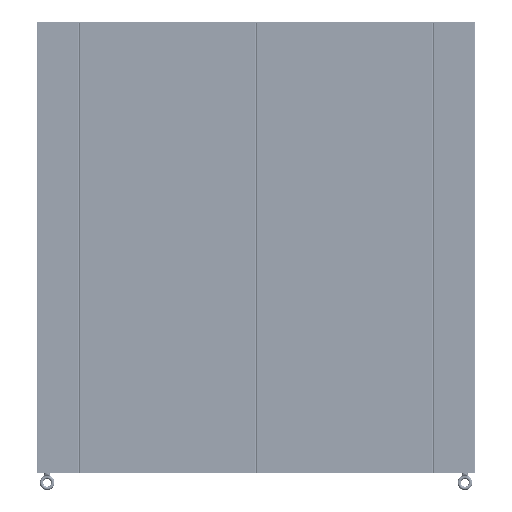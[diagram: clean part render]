
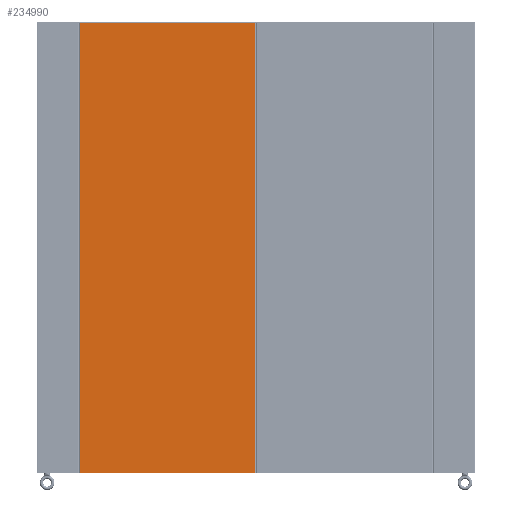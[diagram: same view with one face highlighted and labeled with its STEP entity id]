
A CAD part, left-side view. The second image highlights one B-rep face of the part: STEP entity #234990.
In plain terms, the highlighted planar face has unit normal (-1, 0, 0) as drawn and (0, 0, -1) by its records, which use the part's own axes.
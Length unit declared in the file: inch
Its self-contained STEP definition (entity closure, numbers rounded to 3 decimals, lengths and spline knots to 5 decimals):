
#234011=DIRECTION('',(0.,-1.,0.));
#234012=VECTOR('',#234011,79.792);
#234013=CARTESIAN_POINT('',(-15.4985,39.896,-0.104));
#234014=LINE('',#234013,#234012);
#234201=DIRECTION('',(0.,1.,0.));
#234202=VECTOR('',#234201,79.792);
#234203=CARTESIAN_POINT('',(15.4985,-39.896,-0.104));
#234204=LINE('',#234203,#234202);
#234362=DIRECTION('',(-1.,0.,0.));
#234363=VECTOR('',#234362,30.997);
#234364=CARTESIAN_POINT('',(15.4985,39.896,-0.104));
#234365=LINE('',#234364,#234363);
#234369=DIRECTION('',(1.,0.,0.));
#234370=VECTOR('',#234369,30.997);
#234371=CARTESIAN_POINT('',(-15.4985,-39.896,-0.104));
#234372=LINE('',#234371,#234370);
#234380=CARTESIAN_POINT('',(-15.4985,-39.896,-0.104));
#234381=VERTEX_POINT('',#234380);
#234382=CARTESIAN_POINT('',(-15.4985,39.896,-0.104));
#234383=VERTEX_POINT('',#234382);
#234396=CARTESIAN_POINT('',(15.4985,39.896,-0.104));
#234397=VERTEX_POINT('',#234396);
#234398=CARTESIAN_POINT('',(15.4985,-39.896,-0.104));
#234399=VERTEX_POINT('',#234398);
#234979=CARTESIAN_POINT('',(0.,0.,-0.104));
#234980=DIRECTION('',(0.,0.,1.));
#234981=DIRECTION('',(1.,0.,0.));
#234982=AXIS2_PLACEMENT_3D('',#234979,#234980,#234981);
#234983=PLANE('',#234982);
#234984=ORIENTED_EDGE('',*,*,#234471,.T.);
#234985=ORIENTED_EDGE('',*,*,#234516,.T.);
#234986=ORIENTED_EDGE('',*,*,#234730,.T.);
#234987=ORIENTED_EDGE('',*,*,#234774,.T.);
#234988=EDGE_LOOP('',(#234984,#234985,#234986,#234987));
#234989=FACE_OUTER_BOUND('',#234988,.F.);
#234471=EDGE_CURVE('',#234397,#234383,#234365,.T.);
#234516=EDGE_CURVE('',#234383,#234381,#234014,.T.);
#234730=EDGE_CURVE('',#234381,#234399,#234372,.T.);
#234774=EDGE_CURVE('',#234399,#234397,#234204,.T.);
#234990=ADVANCED_FACE('',(#234989),#234983,.F.);
